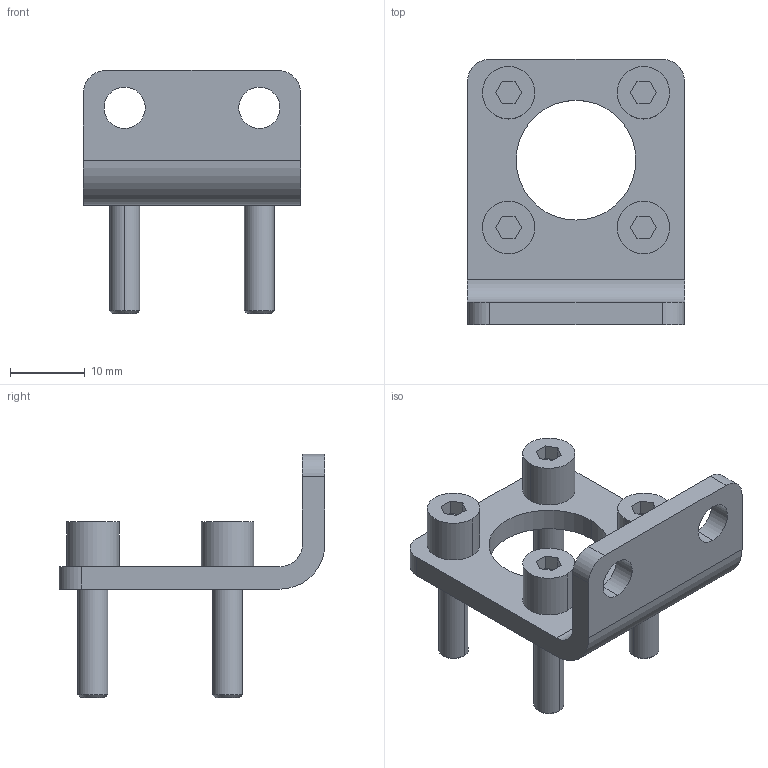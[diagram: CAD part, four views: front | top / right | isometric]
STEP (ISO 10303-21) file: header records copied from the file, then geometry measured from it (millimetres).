
FILE_DESCRIPTION((''),'2;1');
FILE_NAME('1821332053','2024-07-11T17:55:53',('THD3HC'),(''),'CREO PARAMETRIC BY PTC INC, 2023092','CREO PARAMETRIC BY PTC INC, 2023092','');
FILE_SCHEMA(('CONFIG_CONTROL_DESIGN','SHAPE_APPEARANCE_LAYERS_GROUPS'));
Length unit declared in the file: millimetre
Products named in the file (1): 1821332053
Bounding box: 29 x 35.5 x 32.5 mm (x, y, z)
Volume: 5023.3 mm3; surface area: 4496.9 mm2
Topology: 1 solids, 1 shells, 86 faces, 202 edges, 132 vertices
Faces by surface type: plane 46, cylinder 32, cone 8
Entity records: 3873 total; most frequent: DIRECTION 446, CARTESIAN_POINT 420, ORIENTED_EDGE 404, PRESENTATION_STYLE_ASSIGNMENT 263, STYLED_ITEM 203, CURVE_STYLE 202, EDGE_CURVE 202, AXIS2_PLACEMENT_3D 158
